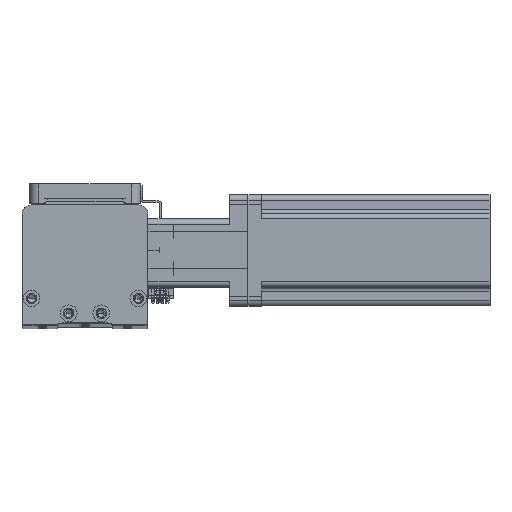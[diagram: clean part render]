
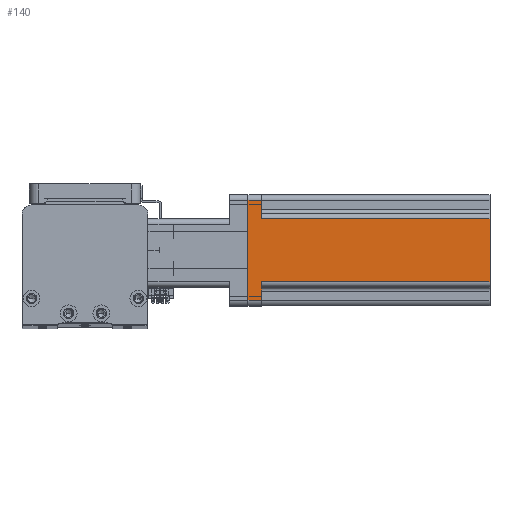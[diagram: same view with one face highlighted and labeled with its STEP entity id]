
A CAD part, top view. The second image highlights one B-rep face of the part: STEP entity #140.
In plain terms, the highlighted planar face has unit normal (0, 0, 1) as drawn and (1, 0, 0) by its records, which use the part's own axes.
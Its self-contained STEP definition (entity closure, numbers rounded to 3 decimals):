
#140 = ADVANCED_FACE ( 'NONE', ( #410 ), #40360, .F. ) ;
#410 = FACE_OUTER_BOUND ( 'NONE', #23581, .T. ) ;
#560 = CARTESIAN_POINT ( 'NONE',  ( 30., -27., 7.5 ) ) ;
#801 = DIRECTION ( 'NONE',  ( 0., 1., 0. ) ) ;
#1691 = DIRECTION ( 'NONE',  ( 0., -1., 0. ) ) ;
#1966 = VERTEX_POINT ( 'NONE', #31508 ) ;
#3614 = VECTOR ( 'NONE', #801, 1000. ) ;
#4695 = CARTESIAN_POINT ( 'NONE',  ( 30., 17., 130.7 ) ) ;
#5265 = VERTEX_POINT ( 'NONE', #38140 ) ;
#6756 = ORIENTED_EDGE ( 'NONE', *, *, #23867, .T. ) ;
#7215 = LINE ( 'NONE', #4695, #25614 ) ;
#8405 = DIRECTION ( 'NONE',  ( 0., 0., 1. ) ) ;
#8964 = VECTOR ( 'NONE', #37055, 1000. ) ;
#9569 = VECTOR ( 'NONE', #47181, 1000. ) ;
#11145 = CARTESIAN_POINT ( 'NONE',  ( 30., 30., 7.5 ) ) ;
#13592 = ORIENTED_EDGE ( 'NONE', *, *, #23678, .T. ) ;
#14244 = ORIENTED_EDGE ( 'NONE', *, *, #23304, .T. ) ;
#14869 = CARTESIAN_POINT ( 'NONE',  ( 30., 27., 7.5 ) ) ;
#15270 = AXIS2_PLACEMENT_3D ( 'NONE', #39118, #39067, #38960 ) ;
#16104 = DIRECTION ( 'NONE',  ( 0., 0., -1. ) ) ;
#17890 = CARTESIAN_POINT ( 'NONE',  ( 30., 27., 130.7 ) ) ;
#18521 = EDGE_CURVE ( 'NONE', #5265, #19400, #33160, .T. ) ;
#19298 = LINE ( 'NONE', #17890, #28027 ) ;
#19400 = VERTEX_POINT ( 'NONE', #47214 ) ;
#21573 = EDGE_CURVE ( 'NONE', #25255, #1966, #37830, .T. ) ;
#23304 = EDGE_CURVE ( 'NONE', #25255, #26042, #23896, .T. ) ;
#23453 = EDGE_CURVE ( 'NONE', #26042, #36956, #25026, .T. ) ;
#23581 = EDGE_LOOP ( 'NONE', ( #37637, #14244, #43156, #39674, #39756, #13592, #26097, #6756 ) ) ;
#23671 = EDGE_CURVE ( 'NONE', #36956, #5265, #39079, .T. ) ;
#23678 = EDGE_CURVE ( 'NONE', #19400, #33606, #19298, .T. ) ;
#23741 = EDGE_CURVE ( 'NONE', #32990, #33606, #28603, .T. ) ;
#23845 = CARTESIAN_POINT ( 'NONE',  ( 30., -30., 7.5 ) ) ;
#23867 = EDGE_CURVE ( 'NONE', #32990, #1966, #7215, .T. ) ;
#23896 = LINE ( 'NONE', #38333, #43606 ) ;
#25026 = LINE ( 'NONE', #23845, #44688 ) ;
#25255 = VERTEX_POINT ( 'NONE', #44117 ) ;
#25614 = VECTOR ( 'NONE', #8405, 1000. ) ;
#26042 = VERTEX_POINT ( 'NONE', #38648 ) ;
#26097 = ORIENTED_EDGE ( 'NONE', *, *, #23741, .F. ) ;
#28027 = VECTOR ( 'NONE', #47325, 1000. ) ;
#28603 = LINE ( 'NONE', #11145, #8964 ) ;
#31508 = CARTESIAN_POINT ( 'NONE',  ( 30., 17., 130.7 ) ) ;
#32720 = CARTESIAN_POINT ( 'NONE',  ( 30., -27., 130.7 ) ) ;
#32990 = VERTEX_POINT ( 'NONE', #37148 ) ;
#33160 = LINE ( 'NONE', #44927, #3614 ) ;
#33606 = VERTEX_POINT ( 'NONE', #14869 ) ;
#36956 = VERTEX_POINT ( 'NONE', #560 ) ;
#37055 = DIRECTION ( 'NONE',  ( 0., 1., 0. ) ) ;
#37099 = CARTESIAN_POINT ( 'NONE',  ( 30., -30., 130.7 ) ) ;
#37148 = CARTESIAN_POINT ( 'NONE',  ( 30., 17., 7.5 ) ) ;
#37637 = ORIENTED_EDGE ( 'NONE', *, *, #21573, .F. ) ;
#37830 = LINE ( 'NONE', #37099, #47438 ) ;
#38140 = CARTESIAN_POINT ( 'NONE',  ( 30., -27., 0. ) ) ;
#38333 = CARTESIAN_POINT ( 'NONE',  ( 30., -17., 7.5 ) ) ;
#38648 = CARTESIAN_POINT ( 'NONE',  ( 30., -17., 7.5 ) ) ;
#38960 = DIRECTION ( 'NONE',  ( 0., 0., 1. ) ) ;
#39067 = DIRECTION ( 'NONE',  ( -1., 0., 0. ) ) ;
#39079 = LINE ( 'NONE', #32720, #9569 ) ;
#39118 = CARTESIAN_POINT ( 'NONE',  ( 30., -30., 130.7 ) ) ;
#39674 = ORIENTED_EDGE ( 'NONE', *, *, #23671, .T. ) ;
#39756 = ORIENTED_EDGE ( 'NONE', *, *, #18521, .T. ) ;
#40360 = PLANE ( 'NONE',  #15270 ) ;
#43156 = ORIENTED_EDGE ( 'NONE', *, *, #23453, .T. ) ;
#43606 = VECTOR ( 'NONE', #16104, 1000. ) ;
#44117 = CARTESIAN_POINT ( 'NONE',  ( 30., -17., 130.7 ) ) ;
#44564 = DIRECTION ( 'NONE',  ( 0., 1., 0. ) ) ;
#44688 = VECTOR ( 'NONE', #1691, 1000. ) ;
#44927 = CARTESIAN_POINT ( 'NONE',  ( 30., -30., 0. ) ) ;
#47181 = DIRECTION ( 'NONE',  ( 0., 0., -1. ) ) ;
#47214 = CARTESIAN_POINT ( 'NONE',  ( 30., 27., 0. ) ) ;
#47325 = DIRECTION ( 'NONE',  ( 0., 0., 1. ) ) ;
#47438 = VECTOR ( 'NONE', #44564, 1000. ) ;
